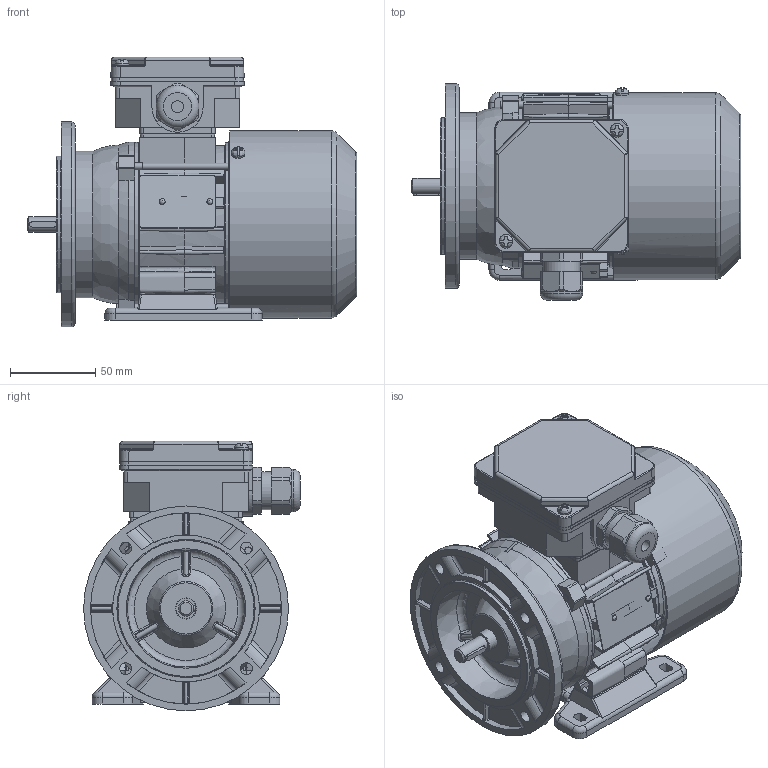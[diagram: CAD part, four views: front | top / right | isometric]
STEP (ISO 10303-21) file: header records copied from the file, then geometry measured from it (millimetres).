
FILE_DESCRIPTION( ( 'Unknown' ), '1' );
FILE_NAME( 'G:/Poczta Tk-1/STP/w.m.56/Sh56/SLh56-B.stp', 'Unknown', ( 'K. Szlosek' ), ( 'BESEL S.A.' ), 'PSStep 17.0.49', 'Unknown', ' ' );
FILE_SCHEMA( ( 'AUTOMOTIVE_DESIGN { 1 0 10303 214 1 1 1 1 }' ) );
Length unit declared in the file: millimetre
Products named in the file (29): Assem1; K4-2320 Uszczelka nr 1 Sh71,80; K1-0512 Tarcza kołnierzowa B5  SKg56-..; K3-9987 kadłub ze stojanem Sh56-B; K3-2193 Tarcza łożyskowa P Sg56-2..; K3-9990 wał Sh56-B; K2-0860 Pokrywka skrzynki zaciskowej; Wpust A3x3x16; K3-2977 Osłona przewietrznika Sg56; K4-2820 Uszczelka nr 2 Sh71,80; Wkręt samogwintujący M4x8; Wkręt samogwintujący M4x16; K2-0879 Przewietrznik Sg56; Nitokołek A 2x6; K1-0484 Łapa Sg56-.. w. robocza; K2-0859 Podstawa skrzynki 6-cio zaciskowej; Śruba ściągająca E_M4x75; Tabliczka znamionowa 32x44; Łożysko 6201; Dławnica M20x1,5
Assembly tree (44 placements, depth 2):
  Assem1
    K4-2320 Uszczelka nr 1 Sh71,80
    K1-0512 Tarcza kołnierzowa B5  SKg56-..
    K3-9987 kadłub ze stojanem Sh56-B
    K3-2193 Tarcza łożyskowa P Sg56-2..
    K3-9990 wał Sh56-B
    K2-0860 Pokrywka skrzynki zaciskowej
    Wpust A3x3x16
    K3-2977 Osłona przewietrznika Sg56
    K4-2820 Uszczelka nr 2 Sh71,80
    Wkręt samogwintujący M4x8  x3
    Wkręt samogwintujący M4x16  x2
    K2-0879 Przewietrznik Sg56
    Nitokołek A 2x6  x2
    K1-0484 Łapa Sg56-.. w. robocza
    K2-0859 Podstawa skrzynki 6-cio zaciskowej
    Śruba ściągająca E_M4x75  x3
    Tabliczka znamionowa 32x44
    Łożysko 6201  x2
    Łożysko 6201  x2
    Łożysko 6201  x2
    Łożysko 6201  x2
    Łożysko 6201  x2
    Łożysko 6201  x2
    Łożysko 6201  x2
    Łożysko 6201  x2
    Łożysko 6201  x2
    Łożysko 6201  x2
    Dławnica M20x1,5
Bounding box: 193 x 127 x 158 mm (x, y, z)
Volume: 487640.1 mm3; surface area: 324103.2 mm2
Topology: 44 solids, 60 shells, 1921 faces, 5175 edges, 3336 vertices
Faces by surface type: plane 978, cylinder 582, bspline 117, torus 106, cone 104, sphere 34
Full cylindrical faces by diameter (mm): 2 x2, 2.4 x2, 3.3 x3, 3.7 x10, 4 x8, 4.5 x4, 4.8 x4, 5 x4, 5.8 x4, 7 x8, 8 x6, 9 x1, 10.9 x1, 11 x1, 11.5 x1, 11.8 x2, 12 x4, 12.4 x2, 15.5 x1, 16 x1, 16.1 x1, 17 x2, 18 x1, 18.376 x1, 18.38 x1, 18.52 x4, 20 x1, 22.3 x1, 24 x2, 25 x1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
Entity records: 85189 total; most frequent: CARTESIAN_POINT 27403, ORIENTED_EDGE 8972, DIRECTION 8868, EDGE_CURVE 4486, AXIS2_PLACEMENT_3D 3276, VERTEX_POINT 3020, LINE 2316, VECTOR 2316
